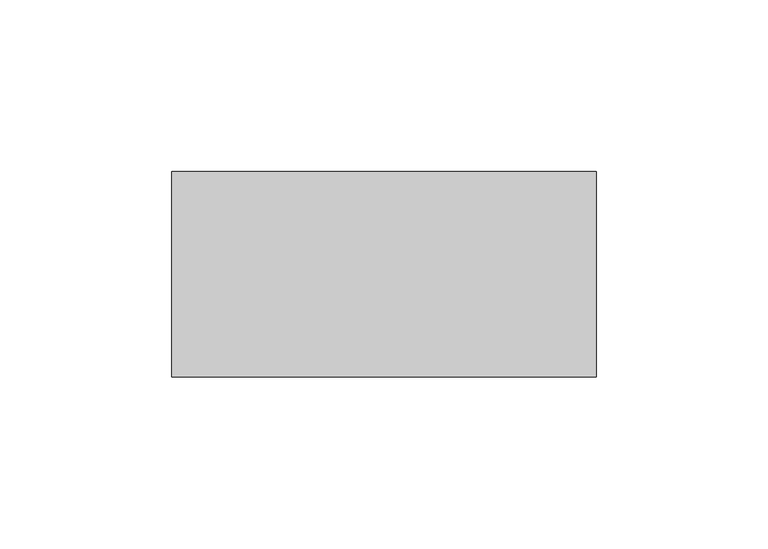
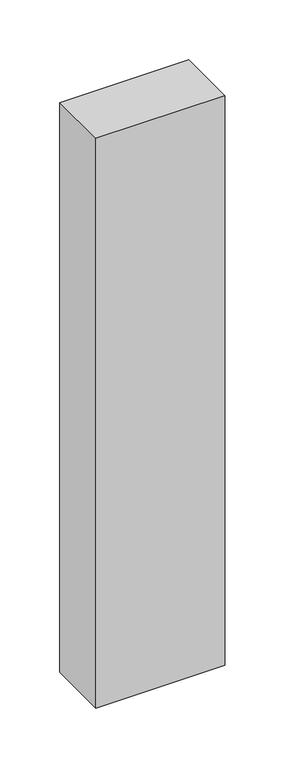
"""IFC4 building model written with IfcOpenShell, lengths in millimetres: plate geometry, Системная панель : Алюкобонд серый."""

import ifcopenshell
import ifcopenshell.guid

model = None  # the IFC model being written
_history = None  # IfcOwnerHistory: only IFC2X3 demands one
_inside = {}  # id of a spatial element -> (the spatial element, [elements in it])
_under = {}  # id of a project, library or spatial element -> (it, [spatial elements below it])
_declared = {}  # id of a project -> (the project, [libraries it declares])
_typed = {}  # id of a type object -> (the type object, [elements of that type])
_made_of = {}  # id of a material, layer set ... -> (it, [elements and type objects made of it])


def new_model(schema):
    """Start an empty IFC model of exactly this schema.

    Asked for "IFC4X3", IfcOpenShell would pick the latest addendum, in which some entities
    have other attributes; the version numbers below select the first issue.
    IFC2X3 requires an IfcOwnerHistory on every rooted entity: one is made here for all.
    """
    global model, _history
    if schema == "IFC4X3":
        model = ifcopenshell.file(schema_version=(4, 3, 0, 0))
    else:
        model = ifcopenshell.file(schema=schema)
    _inside.clear()
    _under.clear()
    _declared.clear()
    _typed.clear()
    _made_of.clear()
    _history = None
    if model.schema == "IFC2X3":
        org = make("IfcOrganization", Name="unknown")
        user = make(
            "IfcPersonAndOrganization",
            ThePerson=make("IfcPerson", FamilyName="unknown"),
            TheOrganization=org,
        )
        app = make(
            "IfcApplication",
            ApplicationDeveloper=org,
            Version="unknown",
            ApplicationFullName="unknown",
            ApplicationIdentifier="unknown",
        )
        _history = make(
            "IfcOwnerHistory",
            OwningUser=user,
            OwningApplication=app,
            ChangeAction="ADDED",
            CreationDate=0,
        )
    return model


def make(cls, **values):
    """One entity of the class cls with the attributes given. An attribute that is None is left unset."""
    return model.create_entity(
        cls, **{name: value for name, value in values.items() if value is not None}
    )


def rooted(cls, **values):
    """An entity with a GlobalId (a new one), such as an element, a storey or a relation."""
    return make(cls, GlobalId=ifcopenshell.guid.new(), OwnerHistory=_history, **values)


def si_unit(unit_type, name, prefix=None):
    """IfcSIUnit, for example si_unit("LENGTHUNIT", "METRE", prefix="MILLI")."""
    return make("IfcSIUnit", UnitType=unit_type, Prefix=prefix, Name=name)


def assignment(units):
    """IfcUnitAssignment: the units of a project."""
    return None if units is None else make("IfcUnitAssignment", Units=units)


def point(xyz):
    """IfcCartesianPoint."""
    return None if xyz is None else make("IfcCartesianPoint", Coordinates=xyz)


def direction(xyz):
    """IfcDirection."""
    return None if xyz is None else make("IfcDirection", DirectionRatios=xyz)


def frame(location, z_axis=None, x_axis=None):
    """IfcAxis2Placement3D, a coordinate frame: its origin and axes. An axis left out is left unset."""
    return make(
        "IfcAxis2Placement3D",
        Location=point(location),
        Axis=direction(z_axis),
        RefDirection=direction(x_axis),
    )


def origin():
    """The frame at (0, 0, 0) with its axes left unset."""
    return frame((0.0, 0.0, 0.0))


def origin_with_axes():
    """The frame at (0, 0, 0) with the z axis (0, 0, 1) and the x axis (1, 0, 0) written out."""
    return frame((0.0, 0.0, 0.0), z_axis=(0.0, 0.0, 1.0), x_axis=(1.0, 0.0, 0.0))


def place(relative_to, where):
    """IfcLocalPlacement: puts the frame where relative to a parent placement (None: the world)."""
    return make(
        "IfcLocalPlacement", PlacementRelTo=relative_to, RelativePlacement=where
    )


def context(
    kind, dimensions, precision=None, world=None, true_north=None, identifier=None
):
    """IfcGeometricRepresentationContext, for example the 3D "Model" context."""
    return make(
        "IfcGeometricRepresentationContext",
        ContextIdentifier=identifier,
        ContextType=kind,
        CoordinateSpaceDimension=dimensions,
        Precision=precision,
        WorldCoordinateSystem=world,
        TrueNorth=true_north,
    )


def project(units=None, contexts=None):
    """IfcProject with its units and contexts."""
    return rooted(
        "IfcProject",
        Name="project",
        RepresentationContexts=contexts,
        UnitsInContext=assignment(units),
    )


def spatial(cls, under=None, at=None, **own):
    """A site, building, storey or space (cls), placed at a placement, below another one or the project."""
    s = rooted(cls, ObjectPlacement=at, **own)
    if under is not None:
        _under.setdefault(under.id(), (under, []))[1].append(s)
    return s


def polyline(points):
    """IfcPolyline through the points."""
    return make("IfcPolyline", Points=[point(p) for p in points])


def outline(outer, holes=None, kind="AREA"):
    """IfcArbitraryClosedProfileDef: a profile drawn as a closed curve; with holes, ...WithVoids."""
    if holes is None:
        return make("IfcArbitraryClosedProfileDef", ProfileType=kind, OuterCurve=outer)
    return make(
        "IfcArbitraryProfileDefWithVoids",
        ProfileType=kind,
        OuterCurve=outer,
        InnerCurves=holes,
    )


def extrude(swept, where, along, depth):
    """IfcExtrudedAreaSolid: the profile swept, set in the frame where, extruded along a direction by depth."""
    return make(
        "IfcExtrudedAreaSolid",
        SweptArea=swept,
        Position=where,
        ExtrudedDirection=direction(along),
        Depth=depth,
    )


def shape(context_of_items, identifier, shape_type, items):
    """IfcShapeRepresentation: the items that make up one representation, for example the "Body"."""
    return make(
        "IfcShapeRepresentation",
        ContextOfItems=context_of_items,
        RepresentationIdentifier=identifier,
        RepresentationType=shape_type,
        Items=items,
    )


def source(mapping_origin, context_of_items, identifier, shape_type, items):
    """IfcRepresentationMap: a shape defined once, which mapped items show again and again."""
    return make(
        "IfcRepresentationMap",
        MappingOrigin=mapping_origin,
        MappedRepresentation=shape(context_of_items, identifier, shape_type, items),
    )


def transform(
    local_origin,
    x_axis=None,
    y_axis=None,
    z_axis=None,
    scale=None,
    scale2=None,
    scale3=None,
    uniform=True,
):
    """IfcCartesianTransformationOperator3D, or its non-uniform kind. x_axis, y_axis, z_axis: its Axis1, 2, 3."""
    if uniform:
        return make(
            "IfcCartesianTransformationOperator3D",
            Axis1=direction(x_axis),
            Axis2=direction(y_axis),
            LocalOrigin=point(local_origin),
            Scale=scale,
            Axis3=direction(z_axis),
        )
    return make(
        "IfcCartesianTransformationOperator3DnonUniform",
        Axis1=direction(x_axis),
        Axis2=direction(y_axis),
        LocalOrigin=point(local_origin),
        Scale=scale,
        Axis3=direction(z_axis),
        Scale2=scale2,
        Scale3=scale3,
    )


def mapped(mapping_source, mapping_target):
    """IfcMappedItem: shows the shape of a source again, moved by a transform."""
    return make(
        "IfcMappedItem", MappingSource=mapping_source, MappingTarget=mapping_target
    )


def made_of(thing, what):
    """Note that an element or type object is made of a material, layer set ...; save() writes the relation."""
    if what is not None:
        _made_of.setdefault(what.id(), (what, []))[1].append(thing)
    return thing


def element(
    cls,
    number,
    at=None,
    inside=None,
    cuts=None,
    type_object=None,
    material=None,
    context=None,
    identifier="Body",
    shape_type=None,
    held_by="IfcProductDefinitionShape",
    body=None,
    shapes=None,
    **own,
):
    """One element of the class cls, such as IfcWall. Its Tag is "e" and its number.

    at: its placement. inside: the storey or other place that contains it. cuts: it is an
    opening in that element (IfcRelVoidsElement). A single representation is given by context,
    identifier, shape_type and body (its items); several are given by shapes. held_by: the class
    of the entity that holds the representations. save() writes the other relations.
    """
    e = rooted(cls, Tag="e%d" % number, ObjectPlacement=at, **own)
    if body is not None:
        shapes = [shape(context, identifier, shape_type, body)]
    if shapes is not None:
        e.Representation = make(held_by, Representations=shapes)
    if inside is not None:
        _inside.setdefault(inside.id(), (inside, []))[1].append(e)
    if cuts is not None:
        rooted(
            "IfcRelVoidsElement", RelatingBuildingElement=cuts, RelatedOpeningElement=e
        )
    if type_object is not None:
        _typed.setdefault(type_object.id(), (type_object, []))[1].append(e)
    return made_of(e, material)


def aggregate(whole, parts):
    """IfcRelAggregates: a whole, such as a stair, and the parts it consists of."""
    return rooted("IfcRelAggregates", RelatingObject=whole, RelatedObjects=parts)


def save(model, path):
    """Write the relations noted so far, then the file.

    IfcRelAggregates (storeys below a building ...), IfcRelContainedInSpatialStructure (elements
    in a storey), IfcRelDefinesByType, IfcRelAssociatesMaterial and IfcRelDeclares: one each for
    every whole, place, type object, material and project.
    """
    for whole, parts in _under.values():
        aggregate(whole, parts)
    for where, things in _inside.values():
        rooted(
            "IfcRelContainedInSpatialStructure",
            RelatedElements=things,
            RelatingStructure=where,
        )
    for kind, things in _typed.values():
        rooted("IfcRelDefinesByType", RelatedObjects=things, RelatingType=kind)
    for what, things in _made_of.values():
        rooted("IfcRelAssociatesMaterial", RelatedObjects=things, RelatingMaterial=what)
    for by, libraries in _declared.values():
        rooted("IfcRelDeclares", RelatingContext=by, RelatedDefinitions=libraries)
    model.write(path)


def plate_31370b1d(model_context):
    return source(origin(), model_context, "Body", "SweptSolid", [
        extrude(outline(polyline([(61.9419209, -10.5), (-61.9419209, -10.5), (-61.9419209, 49.5), (61.9419209, 49.5), (61.9419209, -10.5)])), origin_with_axes(), (0.0, 0.0, 1.0), 580.0),
    ])


if __name__ == "__main__":
    model = new_model("IFC4")
    model_context = context("Model", 3, world=origin())
    ifc_project = project(units=[si_unit("LENGTHUNIT", "METRE", prefix="MILLI")], contexts=[model_context])
    site = spatial("IfcSite", under=ifc_project)
    building = spatial("IfcBuilding", under=site)
    placement = place(None, origin())
    plate_shape = plate_31370b1d(model_context)
    element("IfcPlate", 1, ObjectType="Системная панель : Алюкобонд серый", at=placement, inside=building, context=model_context, shape_type="MappedRepresentation", body=[
        mapped(plate_shape, transform((0.0, 0.0, 0.0), x_axis=(1.0, 0.0, 0.0), y_axis=(0.0, 1.0, 0.0), z_axis=(0.0, 0.0, 1.0))),
    ])
    save(model, "model.ifc")
